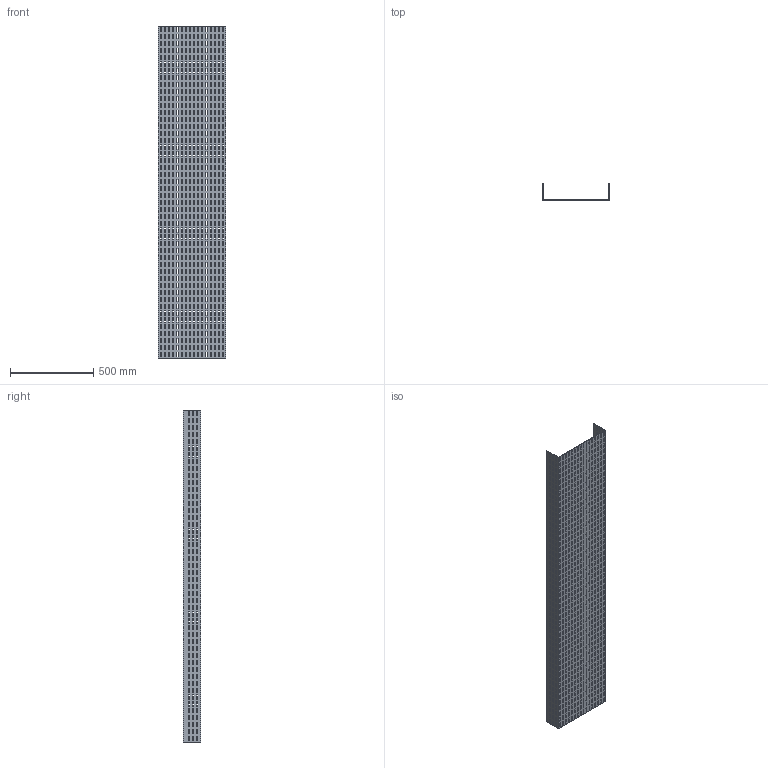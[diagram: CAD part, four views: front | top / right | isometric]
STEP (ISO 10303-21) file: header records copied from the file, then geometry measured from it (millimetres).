
FILE_DESCRIPTION (( 'STEP AP214' ), '1' );
FILE_NAME ('01F2D400.step', '2025-02-21T13:09:55', ( '' ), ( '' ), 'SwSTEP 2.0', 'SolidWorks 2023', '' );
FILE_SCHEMA (( 'AUTOMOTIVE_DESIGN' ));
Length unit declared in the file: millimetre
Products named in the file (1): 01F2D400
Bounding box: 404 x 104 x 2000 mm (x, y, z)
Volume: 3588200 mm3; surface area: 2305179 mm2
Topology: 1 solids, 1 shells, 4234 faces, 12696 edges, 8464 vertices
Faces by surface type: plane 4234
Entity records: 143927 total; most frequent: CARTESIAN_POINT 25395, ORIENTED_EDGE 25392, DIRECTION 21166, EDGE_CURVE 12696, VECTOR 12696, LINE 12696, VERTEX_POINT 8464, EDGE_LOOP 6346
